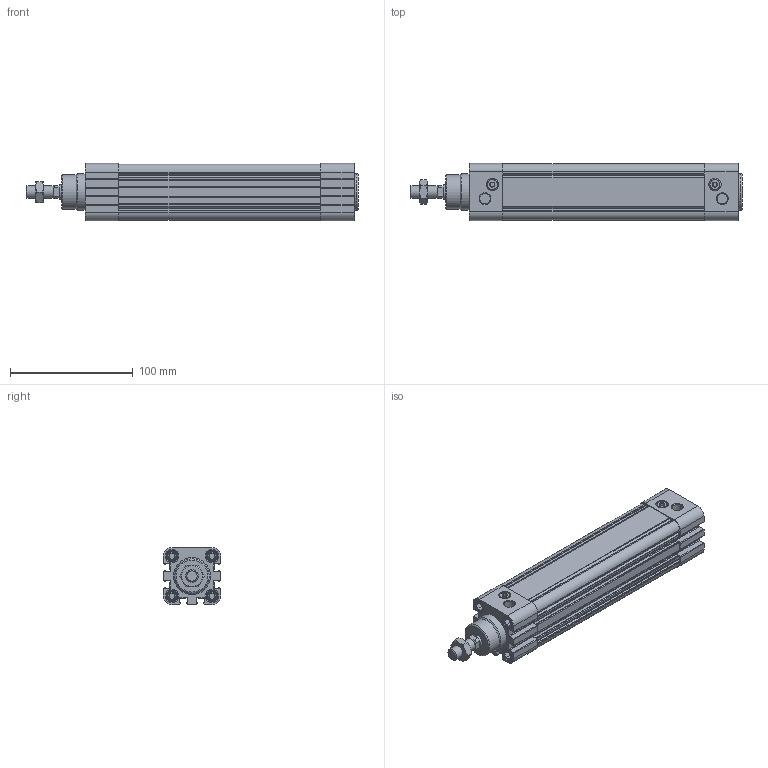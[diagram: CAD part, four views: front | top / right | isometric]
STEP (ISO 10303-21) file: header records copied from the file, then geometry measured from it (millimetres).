
FILE_DESCRIPTION( ( 'STEP AP214' ), '1' );
FILE_NAME( 'C:/Users/emc02044/Desktop/FVBC/FVBC32X125-S.stp', '2026-07-20T06:27:27', ( 'License CC BY-ND 4.0' ), ( 'CADENAS' ), ' ', 'PARTsolutions', ' ' );
FILE_SCHEMA( ( 'AUTOMOTIVE_DESIGN { 1 0 10303 214 1 1 1 1 }' ) );
Length unit declared in the file: millimetre
Products named in the file (3): FVBC32X125-0-S()(0); _FVB32x125()_fvbc_body ; _32X125-0_rod
Assembly tree (2 placements, depth 2):
  FVBC32X125-0-S()(0)
    _FVB32x125()_fvbc_body 
    _32X125-0_rod
Bounding box: 270 x 46.5 x 46.58 mm (x, y, z)
Volume: 316546.9 mm3; surface area: 108154.2 mm2
Topology: 2 solids, 2 shells, 499 faces, 1252 edges, 807 vertices
Faces by surface type: plane 284, cylinder 172, cone 32, torus 11
Full cylindrical faces by diameter (mm): 4.917 x8, 8.4 x8, 8.566 x2, 9.7 x8, 10 x4, 12 x3, 20 x2, 28 x1, 30 x2, 32 x2
Entity records: 18650 total; most frequent: CARTESIAN_POINT 2684, DIRECTION 2542, ORIENTED_EDGE 2352, EDGE_CURVE 1176, AXIS2_PLACEMENT_3D 896, VERTEX_POINT 798, LINE 750, VECTOR 750
